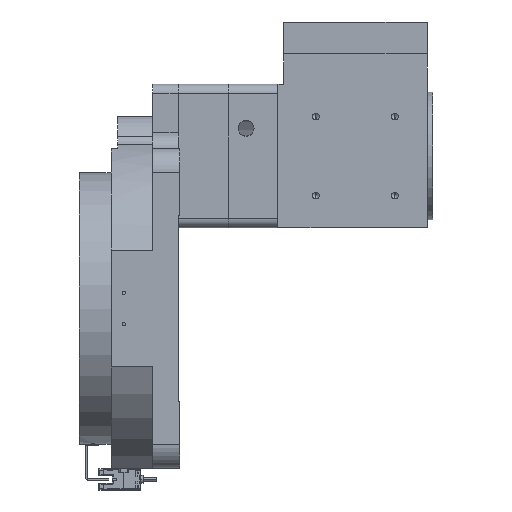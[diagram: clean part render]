
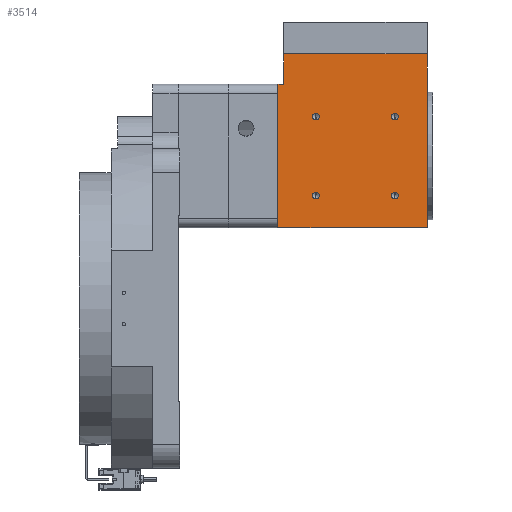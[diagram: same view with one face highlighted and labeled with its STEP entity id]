
A CAD part, left-side view. The second image highlights one B-rep face of the part: STEP entity #3514.
In plain terms, the highlighted planar face has unit normal (-1, 0, 0) as drawn and (1, 0, 0) by its records, which use the part's own axes.
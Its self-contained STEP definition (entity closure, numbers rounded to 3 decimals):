
#2163=DIRECTION('',(0.,1.,0.));
#2164=VECTOR('',#2163,93.5);
#2165=CARTESIAN_POINT('',(45.,-45.,45.));
#2166=LINE('',#2165,#2164);
#2215=DIRECTION('',(0.,1.,0.));
#2216=VECTOR('',#2215,3.5);
#2217=CARTESIAN_POINT('',(45.,45.,-45.));
#2218=LINE('',#2217,#2216);
#2219=DIRECTION('',(0.,0.,1.));
#2220=VECTOR('',#2219,19.);
#2221=CARTESIAN_POINT('',(45.,45.,-64.));
#2222=LINE('',#2221,#2220);
#2223=DIRECTION('',(0.,0.,-1.));
#2224=VECTOR('',#2223,109.);
#2225=CARTESIAN_POINT('',(45.,-45.,45.));
#2226=LINE('',#2225,#2224);
#2227=DIRECTION('',(0.,0.,1.));
#2228=VECTOR('',#2227,90.);
#2229=CARTESIAN_POINT('',(45.,48.5,-45.));
#2230=LINE('',#2229,#2228);
#2231=CARTESIAN_POINT('',(45.,-24.749,24.749));
#2232=DIRECTION('',(-1.,0.,0.));
#2233=DIRECTION('',(0.,0.,-1.));
#2234=AXIS2_PLACEMENT_3D('',#2231,#2232,#2233);
#2236=CARTESIAN_POINT('',(45.,-24.749,24.749));
#2237=DIRECTION('',(-1.,0.,0.));
#2238=DIRECTION('',(0.,0.,1.));
#2239=AXIS2_PLACEMENT_3D('',#2236,#2237,#2238);
#2241=CARTESIAN_POINT('',(45.,-24.749,-24.749));
#2242=DIRECTION('',(-1.,0.,0.));
#2243=DIRECTION('',(0.,0.,-1.));
#2244=AXIS2_PLACEMENT_3D('',#2241,#2242,#2243);
#2246=CARTESIAN_POINT('',(45.,-24.749,-24.749));
#2247=DIRECTION('',(-1.,0.,0.));
#2248=DIRECTION('',(0.,0.,1.));
#2249=AXIS2_PLACEMENT_3D('',#2246,#2247,#2248);
#2251=CARTESIAN_POINT('',(45.,24.749,-24.749));
#2252=DIRECTION('',(-1.,0.,0.));
#2253=DIRECTION('',(0.,0.,-1.));
#2254=AXIS2_PLACEMENT_3D('',#2251,#2252,#2253);
#2256=CARTESIAN_POINT('',(45.,24.749,-24.749));
#2257=DIRECTION('',(-1.,0.,0.));
#2258=DIRECTION('',(0.,0.,1.));
#2259=AXIS2_PLACEMENT_3D('',#2256,#2257,#2258);
#2261=CARTESIAN_POINT('',(45.,24.749,24.749));
#2262=DIRECTION('',(-1.,0.,0.));
#2263=DIRECTION('',(0.,0.,-1.));
#2264=AXIS2_PLACEMENT_3D('',#2261,#2262,#2263);
#2266=CARTESIAN_POINT('',(45.,24.749,24.749));
#2267=DIRECTION('',(-1.,0.,0.));
#2268=DIRECTION('',(0.,0.,1.));
#2269=AXIS2_PLACEMENT_3D('',#2266,#2267,#2268);
#2603=DIRECTION('',(0.,-1.,0.));
#2604=VECTOR('',#2603,90.);
#2605=CARTESIAN_POINT('',(45.,45.,-64.));
#2606=LINE('',#2605,#2604);
#3083=CARTESIAN_POINT('',(45.,45.,-45.));
#3084=CARTESIAN_POINT('',(45.,48.5,-45.));
#3085=VERTEX_POINT('',#3083);
#3086=VERTEX_POINT('',#3084);
#3109=CARTESIAN_POINT('',(45.,-45.,45.));
#3110=CARTESIAN_POINT('',(45.,48.5,45.));
#3111=VERTEX_POINT('',#3109);
#3112=VERTEX_POINT('',#3110);
#3139=CARTESIAN_POINT('',(45.,24.749,-22.649));
#3140=CARTESIAN_POINT('',(45.,24.749,-26.849));
#3141=VERTEX_POINT('',#3139);
#3142=VERTEX_POINT('',#3140);
#3169=CARTESIAN_POINT('',(45.,-24.749,22.649));
#3170=VERTEX_POINT('',#3169);
#3199=CARTESIAN_POINT('',(45.,-24.749,-22.649));
#3200=VERTEX_POINT('',#3199);
#3223=CARTESIAN_POINT('',(45.,-24.749,26.849));
#3224=VERTEX_POINT('',#3223);
#3235=CARTESIAN_POINT('',(45.,-45.,-64.));
#3236=VERTEX_POINT('',#3235);
#3245=CARTESIAN_POINT('',(45.,-24.749,-26.849));
#3246=VERTEX_POINT('',#3245);
#3307=CARTESIAN_POINT('',(45.,45.,-64.));
#3308=VERTEX_POINT('',#3307);
#3331=CARTESIAN_POINT('',(45.,24.749,26.849));
#3332=VERTEX_POINT('',#3331);
#3333=CARTESIAN_POINT('',(45.,24.749,22.649));
#3334=VERTEX_POINT('',#3333);
#3472=CARTESIAN_POINT('',(45.,0.,0.));
#3473=DIRECTION('',(1.,0.,0.));
#3474=DIRECTION('',(0.,0.,-1.));
#3475=AXIS2_PLACEMENT_3D('',#3472,#3473,#3474);
#3476=PLANE('',#3475);
#3478=ORIENTED_EDGE('',*,*,#3477,.F.);
#3480=ORIENTED_EDGE('',*,*,#3479,.F.);
#3482=ORIENTED_EDGE('',*,*,#3481,.T.);
#3484=ORIENTED_EDGE('',*,*,#3483,.F.);
#3485=ORIENTED_EDGE('',*,*,#3438,.T.);
#3487=ORIENTED_EDGE('',*,*,#3486,.F.);
#3488=EDGE_LOOP('',(#3478,#3480,#3482,#3484,#3485,#3487));
#3489=FACE_OUTER_BOUND('',#3488,.F.);
#3491=ORIENTED_EDGE('',*,*,#3490,.F.);
#3493=ORIENTED_EDGE('',*,*,#3492,.F.);
#3494=EDGE_LOOP('',(#3491,#3493));
#3495=FACE_BOUND('',#3494,.F.);
#3497=ORIENTED_EDGE('',*,*,#3496,.F.);
#3499=ORIENTED_EDGE('',*,*,#3498,.F.);
#3500=EDGE_LOOP('',(#3497,#3499));
#3501=FACE_BOUND('',#3500,.F.);
#3503=ORIENTED_EDGE('',*,*,#3502,.F.);
#3505=ORIENTED_EDGE('',*,*,#3504,.F.);
#3506=EDGE_LOOP('',(#3503,#3505));
#3507=FACE_BOUND('',#3506,.F.);
#3509=ORIENTED_EDGE('',*,*,#3508,.F.);
#3511=ORIENTED_EDGE('',*,*,#3510,.F.);
#3512=EDGE_LOOP('',(#3509,#3511));
#3513=FACE_BOUND('',#3512,.F.);
#3514=ADVANCED_FACE('',(#3489,#3495,#3501,#3507,#3513),#3476,.T.);
#2235=CIRCLE('',#2234,2.1);
#2240=CIRCLE('',#2239,2.1);
#2245=CIRCLE('',#2244,2.1);
#2250=CIRCLE('',#2249,2.1);
#2255=CIRCLE('',#2254,2.1);
#2260=CIRCLE('',#2259,2.1);
#2265=CIRCLE('',#2264,2.1);
#2270=CIRCLE('',#2269,2.1);
#3438=EDGE_CURVE('',#3111,#3112,#2166,.T.);
#3477=EDGE_CURVE('',#3085,#3086,#2218,.T.);
#3479=EDGE_CURVE('',#3308,#3085,#2222,.T.);
#3481=EDGE_CURVE('',#3308,#3236,#2606,.T.);
#3483=EDGE_CURVE('',#3111,#3236,#2226,.T.);
#3486=EDGE_CURVE('',#3086,#3112,#2230,.T.);
#3490=EDGE_CURVE('',#3170,#3224,#2235,.T.);
#3492=EDGE_CURVE('',#3224,#3170,#2240,.T.);
#3496=EDGE_CURVE('',#3246,#3200,#2245,.T.);
#3498=EDGE_CURVE('',#3200,#3246,#2250,.T.);
#3502=EDGE_CURVE('',#3142,#3141,#2255,.T.);
#3504=EDGE_CURVE('',#3141,#3142,#2260,.T.);
#3508=EDGE_CURVE('',#3334,#3332,#2265,.T.);
#3510=EDGE_CURVE('',#3332,#3334,#2270,.T.);
